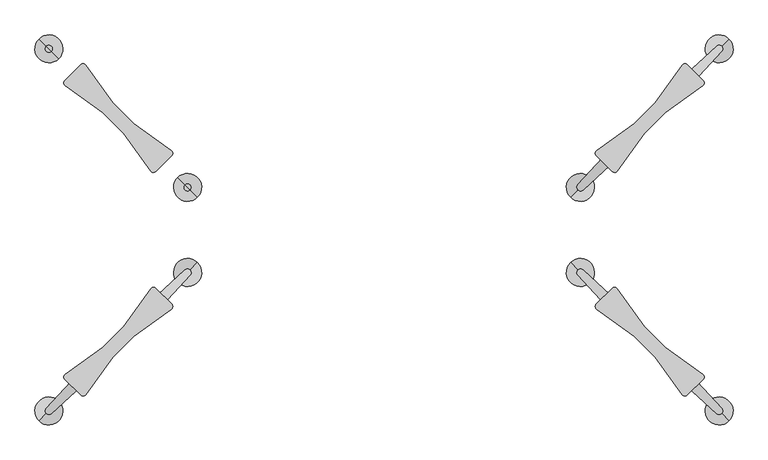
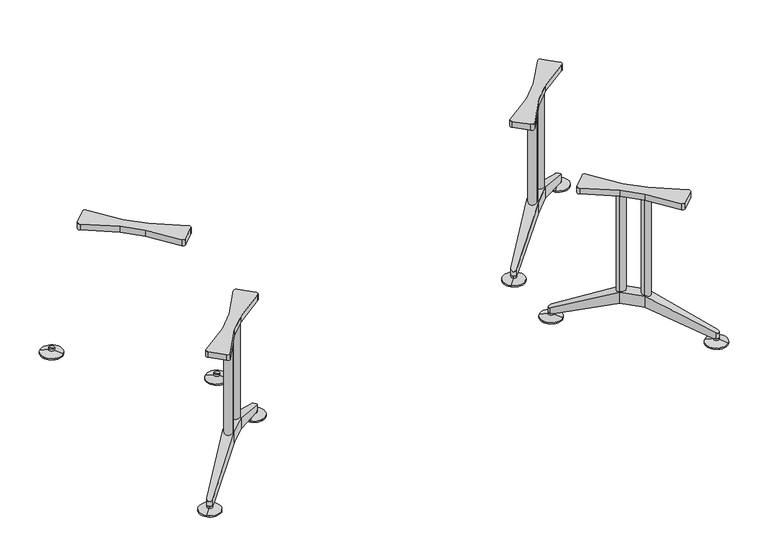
"""IFC4 building model written with IfcOpenShell, lengths in millimetres: furniture geometry, Furniture_Wilkhahn_620-46_Logon Table-Rectangle : Logon 620/46_2650L x 1550W x 730H."""

from ifc_helpers import new_model, si_unit, point, frame, frame_2d, origin, place, context, project, spatial, polyline, circle_curve, ellipse_curve, trimmed, segment, composite_curve, outline, extrude, source, transform, mapped, element, save
from ifc_brep_helpers import plane_surface, cylinder_surface, revolved_surface, advanced_brep


def furniture_56f0e06c(model_context):
    return source(origin(), model_context, "Body", "SolidModel", [
        advanced_brep(
        [(-1198.0915593, -622.1404049, 0.0), (-1162.7362202, -586.7850658, 0.0), (-1233.4468984, -657.4957439, 0.0), (-1162.7362202, -586.7850658, 6.0), (-1233.4468984, -657.4957439, 6.0), (-1189.2699511, -613.3187966, 17.0), (-1206.9131675, -630.9620131, 17.0), (-1189.2699511, -613.3187966, 27.0), (-1206.9131675, -630.9620131, 27.0), (-1198.0915593, -622.1404049, 27.0)],
        [
            (0, 1),
            (1, 2, circle_curve(frame((-1198.0915593, -622.1404049, 0.0), z_axis=(0.0, 0.0, -1.0), x_axis=(-0.707106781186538, -0.7071067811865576, 0.0)), 50.0)),
            (2, 0),
            (2, 1, circle_curve(frame((-1198.0915593, -622.1404049, 0.0), z_axis=(0.0, 0.0, -1.0), x_axis=(-0.707106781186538, -0.7071067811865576, 0.0)), 50.0)),
            (1, 3),
            (3, 4, circle_curve(frame((-1198.0915593, -622.1404049, 6.0), z_axis=(0.0, 0.0, -1.0), x_axis=(-0.707106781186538, -0.7071067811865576, 0.0)), 50.0)),
            (4, 2),
            (4, 3, circle_curve(frame((-1198.0915593, -622.1404049, 6.0), z_axis=(0.0, 0.0, -1.0), x_axis=(-0.707106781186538, -0.7071067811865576, 0.0)), 50.0)),
            (3, 5),
            (5, 6, circle_curve(frame((-1198.0915593, -622.1404049, 17.0), z_axis=(0.0, 0.0, -1.0), x_axis=(-0.707106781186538, -0.7071067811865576, 0.0)), 12.475638)),
            (6, 4),
            (6, 5, circle_curve(frame((-1198.0915593, -622.1404049, 17.0), z_axis=(0.0, 0.0, -1.0), x_axis=(-0.707106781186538, -0.7071067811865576, 0.0)), 12.475638)),
            (5, 7),
            (7, 8, circle_curve(frame((-1198.0915593, -622.1404049, 27.0), z_axis=(0.0, 0.0, -1.0), x_axis=(-0.707106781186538, -0.7071067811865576, 0.0)), 12.475638)),
            (8, 6),
            (8, 7, circle_curve(frame((-1198.0915593, -622.1404049, 27.0), z_axis=(0.0, 0.0, -1.0), x_axis=(-0.707106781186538, -0.7071067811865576, 0.0)), 12.475638)),
            (7, 9),
            (9, 8),
        ],
        [
            plane_surface(frame((-1198.0915593, -622.1404049, 0.0), z_axis=(0.0, 0.0, -0.9999999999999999), x_axis=(-0.7071067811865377, -0.7071067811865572, 0.0))),
            cylinder_surface(frame((-1198.0915593, -622.1404049, 27.0), z_axis=(0.0, 0.0, -1.0), x_axis=(-0.707106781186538, -0.7071067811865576, 0.0)), 50.0),
            revolved_surface(polyline([(-1206.9131675, -630.9620131, 17.0), (-1233.4468984, -657.4957439, 6.0)]), (-1198.0915593, -622.1404049, 27.0), (0.0, 0.0, -1.0)),
            cylinder_surface(frame((-1198.0915593, -622.1404049, 27.0), z_axis=(0.0, 0.0, -1.0), x_axis=(-0.707106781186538, -0.7071067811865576, 0.0)), 12.475638),
            plane_surface(frame((-1198.0915593, -622.1404049, 27.0), z_axis=(0.0, 0.0, 0.9999999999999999), x_axis=(-0.7071067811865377, -0.7071067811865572, 0.0))),
        ],
        [
            (0, [[1, 2, 3]]),
            (0, [[-3, 4, -1]]),
            (1, [[5, 6, 7, -2]]),
            (1, [[-7, 8, -5, -4]]),
            (2, [[9, 10, 11, -6]]),
            (2, [[-11, 12, -9, -8]]),
            (3, [[13, 14, 15, -10]]),
            (3, [[-15, 16, -13, -12]]),
            (4, [[17, 18, -14]]),
            (4, [[-18, -17, -16]]),
        ],
    ),
        advanced_brep(
        [(-737.7305917, -161.7794373, 0.0), (-702.3752526, -126.4240982, 0.0), (-667.0199136, -91.0687591, 0.0), (-737.7305917, -161.7794373, 6.0), (-667.0199136, -91.0687591, 6.0), (-711.1968609, -135.2457064, 17.0), (-693.5536444, -117.60249, 17.0), (-711.1968609, -135.2457064, 27.0), (-693.5536444, -117.60249, 27.0), (-702.3752526, -126.4240982, 27.0)],
        [
            (0, 1),
            (1, 2),
            (2, 0, circle_curve(frame((-702.3752526, -126.4240982, 0.0), z_axis=(0.0, 0.0, -1.0), x_axis=(0.707106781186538, 0.7071067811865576, 0.0)), 50.0)),
            (0, 2, circle_curve(frame((-702.3752526, -126.4240982, 0.0), z_axis=(0.0, 0.0, -1.0), x_axis=(0.707106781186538, 0.7071067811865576, 0.0)), 50.0)),
            (3, 0),
            (2, 4),
            (4, 3, circle_curve(frame((-702.3752526, -126.4240982, 6.0), z_axis=(0.0, 0.0, -1.0), x_axis=(0.707106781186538, 0.7071067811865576, 0.0)), 50.0)),
            (3, 4, circle_curve(frame((-702.3752526, -126.4240982, 6.0), z_axis=(0.0, 0.0, -1.0), x_axis=(0.707106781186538, 0.7071067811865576, 0.0)), 50.0)),
            (5, 3),
            (4, 6),
            (6, 5, circle_curve(frame((-702.3752526, -126.4240982, 17.0), z_axis=(0.0, 0.0, -1.0), x_axis=(0.707106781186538, 0.7071067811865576, 0.0)), 12.475638)),
            (5, 6, circle_curve(frame((-702.3752526, -126.4240982, 17.0), z_axis=(0.0, 0.0, -1.0), x_axis=(0.707106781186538, 0.7071067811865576, 0.0)), 12.475638)),
            (7, 5),
            (6, 8),
            (8, 7, circle_curve(frame((-702.3752526, -126.4240982, 27.0), z_axis=(0.0, 0.0, -1.0), x_axis=(0.707106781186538, 0.7071067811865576, 0.0)), 12.475638)),
            (7, 8, circle_curve(frame((-702.3752526, -126.4240982, 27.0), z_axis=(0.0, 0.0, -1.0), x_axis=(0.707106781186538, 0.7071067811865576, 0.0)), 12.475638)),
            (9, 7),
            (8, 9),
        ],
        [
            plane_surface(frame((-702.3752526, -126.4240982, 0.0), z_axis=(0.0, 0.0, -0.9999999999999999), x_axis=(0.7071067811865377, 0.7071067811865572, 0.0))),
            cylinder_surface(frame((-702.3752526, -126.4240982, 27.0), z_axis=(0.0, 0.0, 1.0), x_axis=(0.707106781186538, 0.7071067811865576, 0.0)), 50.0),
            revolved_surface(polyline([(-667.0199136, -91.0687591, 6.0), (-693.5536444, -117.60249, 17.0)]), (-702.3752526, -126.4240982, 27.0), (0.0, 0.0, 1.0)),
            cylinder_surface(frame((-702.3752526, -126.4240982, 27.0), z_axis=(0.0, 0.0, 1.0), x_axis=(0.707106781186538, 0.7071067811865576, 0.0)), 12.475638),
            plane_surface(frame((-702.3752526, -126.4240982, 27.0), z_axis=(0.0, 0.0, 0.9999999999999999), x_axis=(0.7071067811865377, 0.7071067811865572, 0.0))),
        ],
        [
            (0, [[1, 2, 3]]),
            (0, [[-2, -1, 4]]),
            (1, [[5, -3, 6, 7]]),
            (1, [[-6, -4, -5, 8]]),
            (2, [[9, -7, 10, 11]]),
            (2, [[-10, -8, -9, 12]]),
            (3, [[13, -11, 14, 15]]),
            (3, [[-14, -12, -13, 16]]),
            (4, [[17, -15, 18]]),
            (4, [[-18, -16, -17]]),
        ],
    ),
        extrude(outline(composite_curve([segment(polyline([(-1005.3877349, -394.0812414), (-930.4344161, -319.1279226), (-834.0248184, -184.9361853)]), True, "CONTINUOUS"), segment(trimmed(circle_curve(frame_2d((-824.2792328, -191.9378681)), 12.0), [point((-834.0248184, -184.9361853))], [point((-815.7939515, -183.4525867))], False, "CARTESIAN"), True, "CONTINUOUS"), segment(polyline([(-815.7939515, -183.4525867), (-759.4037411, -239.842797)]), True, "CONTINUOUS"), segment(trimmed(circle_curve(frame_2d((-767.8890225, -248.3280784)), 12.0), [point((-759.4037411, -239.842797))], [point((-760.8873397, -258.073664))], False, "CARTESIAN"), True, "CONTINUOUS"), segment(polyline([(-760.8873397, -258.073664), (-895.079077, -354.4832617), (-970.0323958, -429.4365805), (-1066.4419936, -563.6283178)]), True, "CONTINUOUS"), segment(trimmed(circle_curve(frame_2d((-1076.1875791, -556.626635)), 12.0), [point((-1066.4419936, -563.6283178))], [point((-1084.6728605, -565.1119164))], False, "CARTESIAN"), True, "CONTINUOUS"), segment(polyline([(-1084.6728605, -565.1119164), (-1141.0630708, -508.721706)]), True, "CONTINUOUS"), segment(trimmed(circle_curve(frame_2d((-1132.5777894, -500.2364247)), 12.0), [point((-1141.0630708, -508.721706))], [point((-1139.5794723, -490.4908391))], False, "CARTESIAN"), True, "CONTINUOUS"), segment(polyline([(-1139.5794723, -490.4908391), (-1005.3877349, -394.0812414)]), True, "CONTINUOUS")], self_intersect=False)), frame((0.0, 0.0, 675.0), z_axis=(0.0, 0.0, 1.0), x_axis=(1.0, 0.0, 0.0)), (0.0, 0.0, 1.0), 29.0),
        advanced_brep(
        [(-895.079077, -354.4832617, 140.0), (-895.079077, -354.4832617, 195.0), (-970.0323958, -429.4365805, 195.0), (-970.0323958, -429.4365805, 140.0), (-930.4344161, -319.1279226, 195.0), (-930.4344161, -319.1279226, 140.0), (-1005.3877349, -394.0812414, 140.0), (-1005.3877349, -394.0812414, 195.0), (-720.7378823, -125.704685, 27.0), (-711.5601599, -117.2391909, 27.0), (-693.5536444, -117.60249, 27.0), (-693.1903453, -135.6090055, 27.0), (-701.6558394, -144.7867279, 27.0), (-693.1903453, -135.6090055, 56.4159205), (-693.5536444, -117.60249, 50.6048844), (-711.5601599, -117.2391909, 56.4159205), (-1207.2764666, -612.9554976, 56.4159205), (-1198.8109725, -603.7777752, 27.0), (-1207.2764666, -612.9554976, 27.0), (-1188.906652, -631.3253122, 27.0), (-1179.7289296, -622.8598181, 27.0), (-1188.906652, -631.3253122, 56.4159205), (-1206.9131675, -630.9620131, 50.6048844), (-1206.9131675, -630.9620131, 27.0)],
        [
            (0, 1),
            (1, 2),
            (2, 3),
            (3, 0),
            (4, 5),
            (5, 6),
            (6, 7),
            (7, 4),
            (8, 9),
            (9, 10, circle_curve(frame((-702.7460326, -126.7948781, 27.0), z_axis=(0.0, 0.0, -1.0), x_axis=(-0.7071067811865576, 0.707106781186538, 0.0)), 13.0)),
            (10, 11, circle_curve(frame((-702.7460326, -126.7948781, 27.0), z_axis=(0.0, 0.0, -1.0), x_axis=(-0.7071067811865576, 0.707106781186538, 0.0)), 13.0)),
            (11, 12),
            (12, 8),
            (1, 13),
            (13, 14, ellipse_curve(frame((-702.7460326, -126.7948781, 56.6601634), z_axis=(0.29856403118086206, 0.29856403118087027, 0.906487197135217), x_axis=(0.6409832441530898, 0.6409832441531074, -0.4222333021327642)), 14.341074, 13.0)),
            (14, 15, ellipse_curve(frame((-702.7460326, -126.7948781, 56.6601634), z_axis=(0.29856403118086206, 0.29856403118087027, 0.906487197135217), x_axis=(0.6409832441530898, 0.6409832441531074, -0.4222333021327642)), 14.341074, 13.0)),
            (15, 4),
            (4, 1),
            (5, 8),
            (12, 0),
            (0, 5),
            (16, 7),
            (6, 17),
            (17, 18),
            (18, 16),
            (19, 20),
            (20, 3),
            (2, 21),
            (21, 19),
            (7, 2),
            (3, 6),
            (21, 22, ellipse_curve(frame((-1197.7207794, -621.769625, 56.6601634), z_axis=(0.29856403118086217, 0.29856403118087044, -0.9064871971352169), x_axis=(-0.6409832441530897, -0.6409832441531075, -0.42223330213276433)), 14.341074, 13.0)),
            (22, 16, ellipse_curve(frame((-1197.7207794, -621.769625, 56.6601634), z_axis=(0.29856403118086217, 0.29856403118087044, -0.9064871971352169), x_axis=(-0.6409832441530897, -0.6409832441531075, -0.42223330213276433)), 14.341074, 13.0)),
            (18, 23, circle_curve(frame((-1197.7207794, -621.769625, 27.0), z_axis=(0.0, 0.0, 1.0), x_axis=(-0.7071067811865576, 0.707106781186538, 0.0)), 13.0)),
            (23, 19, circle_curve(frame((-1197.7207794, -621.769625, 27.0), z_axis=(0.0, 0.0, 1.0), x_axis=(-0.7071067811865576, 0.707106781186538, 0.0)), 13.0)),
            (11, 13),
            (9, 15),
            (17, 20),
        ],
        [
            plane_surface(frame((-687.7175668, -147.1217514, 27.0), z_axis=(0.7071067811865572, -0.7071067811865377, 0.0), x_axis=(-0.7071067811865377, -0.7071067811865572, 0.0))),
            plane_surface(frame((-723.0729058, -111.7664123, 27.0), z_axis=(-0.7071067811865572, 0.7071067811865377, 0.0), x_axis=(0.7071067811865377, 0.7071067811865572, 0.0))),
            plane_surface(frame((-728.8745304, -117.5680369, 27.0), z_axis=(0.0, 0.0, -0.9999999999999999), x_axis=(0.7071067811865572, -0.7071067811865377, 0.0))),
            plane_surface(frame((-711.2313139, -99.9248204, 50.6048844), z_axis=(0.29856403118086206, 0.29856403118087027, 0.906487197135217), x_axis=(0.7071067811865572, -0.7071067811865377, 0.0))),
            plane_surface(frame((-930.4344161, -319.1279226, 140.0), z_axis=(-0.26058488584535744, -0.2605848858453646, -0.9296187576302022), x_axis=(0.7071067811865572, -0.7071067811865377, 0.0))),
            plane_surface(frame((-1005.3877349, -394.0812414, 195.0), z_axis=(-0.735052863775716, 0.6780097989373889, 0.0), x_axis=(0.0, 0.0, -1.0))),
            plane_surface(frame((-1188.906652, -631.3253122, 195.0), z_axis=(0.678009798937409, -0.7350528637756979, 0.0), x_axis=(0.0, 0.0, -1.0))),
            plane_surface(frame((-930.4344161, -319.1279226, 195.0), z_axis=(0.0, 0.0, 0.9999999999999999), x_axis=(0.7071067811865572, -0.7071067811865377, 0.0))),
            plane_surface(frame((-1005.3877349, -394.0812414, 140.0), z_axis=(0.0, 0.0, -0.9999999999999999), x_axis=(0.7071067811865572, -0.7071067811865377, 0.0))),
            cylinder_surface(frame((-1197.7207794, -621.769625, 0.0), z_axis=(0.0, 0.0, -1.0), x_axis=(-0.7071067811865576, 0.707106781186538, 0.0)), 13.0),
            plane_surface(frame((-895.079077, -354.4832617, 195.0), z_axis=(0.7350528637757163, -0.6780097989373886, 0.0), x_axis=(0.0, 0.0, -1.0))),
            cylinder_surface(frame((-702.7460326, -126.7948781, -14.190167), z_axis=(0.0, 0.0, -1.0), x_axis=(-0.7071067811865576, 0.707106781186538, 0.0)), 13.0),
            plane_surface(frame((-711.5601599, -117.2391909, 195.0), z_axis=(-0.6780097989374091, 0.7350528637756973, 0.0), x_axis=(0.0, 0.0, -1.0))),
            plane_surface(frame((-1005.3877349, -394.0812414, 195.0), z_axis=(-0.29856403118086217, -0.29856403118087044, 0.9064871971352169), x_axis=(0.7071067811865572, -0.7071067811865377, 0.0))),
            plane_surface(frame((-1224.5908371, -613.2843436, 27.0), z_axis=(0.0, 0.0, -0.9999999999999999), x_axis=(0.7071067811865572, -0.7071067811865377, 0.0))),
            plane_surface(frame((-1206.9476206, -595.6411271, 27.0), z_axis=(0.2605848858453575, 0.2605848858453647, -0.9296187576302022), x_axis=(0.7071067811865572, -0.7071067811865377, 0.0))),
        ],
        [
            (0, [[1, 2, 3, 4]]),
            (1, [[5, 6, 7, 8]]),
            (2, [[9, 10, 11, 12, 13]]),
            (3, [[14, 15, 16, 17, 18]]),
            (4, [[19, -13, 20, 21]]),
            (5, [[22, -7, 23, 24, 25]]),
            (6, [[26, 27, -3, 28, 29]]),
            (7, [[-18, -8, 30, -2]]),
            (8, [[31, -6, -21, -4]]),
            (9, [[32, 33, -25, 34, 35, -29]]),
            (10, [[-14, -1, -20, -12, 36]]),
            (11, [[-11, -10, 37, -16, -15, -36]]),
            (12, [[-9, -19, -5, -17, -37]]),
            (13, [[-22, -33, -32, -28, -30]]),
            (14, [[-26, -35, -34, -24, 38]]),
            (15, [[-27, -38, -23, -31]]),
        ],
    ),
        extrude(outline(composite_curve([segment(trimmed(circle_curve(frame_2d((-987.7100654, -411.7589109)), 20.0), [point((-973.5679298, -425.9010466))], [point((-1001.852201, -397.6167753))], False, "CARTESIAN"), True, "CONTINUOUS"), segment(trimmed(circle_curve(frame_2d((-987.7100654, -411.7589109)), 20.0), [point((-1001.852201, -397.6167753))], [point((-973.5679298, -425.9010466))], False, "CARTESIAN"), True, "CONTINUOUS")], self_intersect=False)), frame((0.0, 0.0, 140.0), z_axis=(0.0, 0.0, 1.0), x_axis=(1.0, 0.0, 0.0)), (0.0, 0.0, 1.0), 535.0),
        extrude(outline(composite_curve([segment(trimmed(circle_curve(frame_2d((-912.7567466, -336.8055921)), 20.0), [point((-898.6146109, -350.9477278))], [point((-926.8988822, -322.6634565))], False, "CARTESIAN"), True, "CONTINUOUS"), segment(trimmed(circle_curve(frame_2d((-912.7567466, -336.8055921)), 20.0), [point((-926.8988822, -322.6634565))], [point((-898.6146109, -350.9477278))], False, "CARTESIAN"), True, "CONTINUOUS")], self_intersect=False)), frame((0.0, 0.0, 140.0), z_axis=(0.0, 0.0, 1.0), x_axis=(1.0, 0.0, 0.0)), (0.0, 0.0, 1.0), 535.0),
        advanced_brep(
        [(1198.0915593, -622.1404049, 0.0), (1233.4468984, -657.4957439, 0.0), (1162.7362202, -586.7850658, 0.0), (1233.4468984, -657.4957439, 6.0), (1162.7362202, -586.7850658, 6.0), (1206.9131675, -630.9620131, 17.0), (1189.2699511, -613.3187966, 17.0), (1206.9131675, -630.9620131, 27.0), (1189.2699511, -613.3187966, 27.0), (1198.0915593, -622.1404049, 27.0)],
        [
            (0, 1),
            (1, 2, circle_curve(frame((1198.0915593, -622.1404049, 0.0), z_axis=(0.0, 0.0, -1.0), x_axis=(0.707106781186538, -0.7071067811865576, 0.0)), 50.0)),
            (2, 0),
            (2, 1, circle_curve(frame((1198.0915593, -622.1404049, 0.0), z_axis=(0.0, 0.0, -1.0), x_axis=(0.707106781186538, -0.7071067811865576, 0.0)), 50.0)),
            (1, 3),
            (3, 4, circle_curve(frame((1198.0915593, -622.1404049, 6.0), z_axis=(0.0, 0.0, -1.0), x_axis=(0.707106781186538, -0.7071067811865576, 0.0)), 50.0)),
            (4, 2),
            (4, 3, circle_curve(frame((1198.0915593, -622.1404049, 6.0), z_axis=(0.0, 0.0, -1.0), x_axis=(0.707106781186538, -0.7071067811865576, 0.0)), 50.0)),
            (3, 5),
            (5, 6, circle_curve(frame((1198.0915593, -622.1404049, 17.0), z_axis=(0.0, 0.0, -1.0), x_axis=(0.707106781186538, -0.7071067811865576, 0.0)), 12.475638)),
            (6, 4),
            (6, 5, circle_curve(frame((1198.0915593, -622.1404049, 17.0), z_axis=(0.0, 0.0, -1.0), x_axis=(0.707106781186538, -0.7071067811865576, 0.0)), 12.475638)),
            (5, 7),
            (7, 8, circle_curve(frame((1198.0915593, -622.1404049, 27.0), z_axis=(0.0, 0.0, -1.0), x_axis=(0.707106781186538, -0.7071067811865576, 0.0)), 12.475638)),
            (8, 6),
            (8, 7, circle_curve(frame((1198.0915593, -622.1404049, 27.0), z_axis=(0.0, 0.0, -1.0), x_axis=(0.707106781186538, -0.7071067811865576, 0.0)), 12.475638)),
            (7, 9),
            (9, 8),
        ],
        [
            plane_surface(frame((1198.0915593, -622.1404049, 0.0), z_axis=(0.0, 0.0, -0.9999999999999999), x_axis=(0.7071067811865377, -0.7071067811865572, 0.0))),
            cylinder_surface(frame((1198.0915593, -622.1404049, 27.0), z_axis=(0.0, 0.0, -1.0), x_axis=(0.707106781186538, -0.7071067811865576, 0.0)), 50.0),
            revolved_surface(polyline([(1206.9131675, -630.9620131, 17.0), (1233.4468984, -657.4957439, 6.0)]), (1198.0915593, -622.1404049, 27.0), (0.0, 0.0, -1.0)),
            cylinder_surface(frame((1198.0915593, -622.1404049, 27.0), z_axis=(0.0, 0.0, -1.0), x_axis=(0.707106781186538, -0.7071067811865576, 0.0)), 12.475638),
            plane_surface(frame((1198.0915593, -622.1404049, 27.0), z_axis=(0.0, 0.0, 0.9999999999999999), x_axis=(0.7071067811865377, -0.7071067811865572, 0.0))),
        ],
        [
            (0, [[1, 2, 3]]),
            (0, [[-3, 4, -1]]),
            (1, [[-2, 5, 6, 7]]),
            (1, [[-4, -7, 8, -5]]),
            (2, [[-6, 9, 10, 11]]),
            (2, [[-8, -11, 12, -9]]),
            (3, [[-10, 13, 14, 15]]),
            (3, [[-12, -15, 16, -13]]),
            (4, [[-14, 17, 18]]),
            (4, [[-16, -18, -17]]),
        ],
    ),
        advanced_brep(
        [(737.7305917, -161.7794373, 0.0), (667.0199136, -91.0687591, 0.0), (702.3752526, -126.4240982, 0.0), (737.7305917, -161.7794373, 6.0), (667.0199136, -91.0687591, 6.0), (711.1968609, -135.2457064, 17.0), (693.5536444, -117.60249, 17.0), (711.1968609, -135.2457064, 27.0), (693.5536444, -117.60249, 27.0), (702.3752526, -126.4240982, 27.0)],
        [
            (0, 1, circle_curve(frame((702.3752526, -126.4240982, 0.0), z_axis=(0.0, 0.0, -1.0), x_axis=(-0.707106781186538, 0.7071067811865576, 0.0)), 50.0)),
            (1, 2),
            (2, 0),
            (1, 0, circle_curve(frame((702.3752526, -126.4240982, 0.0), z_axis=(0.0, 0.0, -1.0), x_axis=(-0.707106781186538, 0.7071067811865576, 0.0)), 50.0)),
            (3, 4, circle_curve(frame((702.3752526, -126.4240982, 6.0), z_axis=(0.0, 0.0, -1.0), x_axis=(-0.707106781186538, 0.7071067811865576, 0.0)), 50.0)),
            (4, 1),
            (0, 3),
            (4, 3, circle_curve(frame((702.3752526, -126.4240982, 6.0), z_axis=(0.0, 0.0, -1.0), x_axis=(-0.707106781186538, 0.7071067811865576, 0.0)), 50.0)),
            (5, 6, circle_curve(frame((702.3752526, -126.4240982, 17.0), z_axis=(0.0, 0.0, -1.0), x_axis=(-0.707106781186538, 0.7071067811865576, 0.0)), 12.475638)),
            (6, 4),
            (3, 5),
            (6, 5, circle_curve(frame((702.3752526, -126.4240982, 17.0), z_axis=(0.0, 0.0, -1.0), x_axis=(-0.707106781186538, 0.7071067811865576, 0.0)), 12.475638)),
            (7, 8, circle_curve(frame((702.3752526, -126.4240982, 27.0), z_axis=(0.0, 0.0, -1.0), x_axis=(-0.707106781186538, 0.7071067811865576, 0.0)), 12.475638)),
            (8, 6),
            (5, 7),
            (8, 7, circle_curve(frame((702.3752526, -126.4240982, 27.0), z_axis=(0.0, 0.0, -1.0), x_axis=(-0.707106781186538, 0.7071067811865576, 0.0)), 12.475638)),
            (9, 8),
            (7, 9),
        ],
        [
            plane_surface(frame((702.3752526, -126.4240982, 0.0), z_axis=(0.0, 0.0, -0.9999999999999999), x_axis=(-0.7071067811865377, 0.7071067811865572, 0.0))),
            cylinder_surface(frame((702.3752526, -126.4240982, 27.0), z_axis=(0.0, 0.0, 1.0), x_axis=(-0.707106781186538, 0.7071067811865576, 0.0)), 50.0),
            revolved_surface(polyline([(667.0199136, -91.0687591, 6.0), (693.5536444, -117.60249, 17.0)]), (702.3752526, -126.4240982, 27.0), (0.0, 0.0, 1.0)),
            cylinder_surface(frame((702.3752526, -126.4240982, 27.0), z_axis=(0.0, 0.0, 1.0), x_axis=(-0.707106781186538, 0.7071067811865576, 0.0)), 12.475638),
            plane_surface(frame((702.3752526, -126.4240982, 27.0), z_axis=(0.0, 0.0, 0.9999999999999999), x_axis=(-0.7071067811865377, 0.7071067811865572, 0.0))),
        ],
        [
            (0, [[1, 2, 3]]),
            (0, [[4, -3, -2]]),
            (1, [[5, 6, -1, 7]]),
            (1, [[8, -7, -4, -6]]),
            (2, [[9, 10, -5, 11]]),
            (2, [[12, -11, -8, -10]]),
            (3, [[13, 14, -9, 15]]),
            (3, [[16, -15, -12, -14]]),
            (4, [[17, -13, 18]]),
            (4, [[-18, -16, -17]]),
        ],
    ),
        extrude(outline(composite_curve([segment(polyline([(1005.3877349, -394.0812414), (1139.5794723, -490.4908391)]), True, "CONTINUOUS"), segment(trimmed(circle_curve(frame_2d((1132.5777894, -500.2364247)), 12.0), [point((1139.5794723, -490.4908391))], [point((1141.0630708, -508.721706))], False, "CARTESIAN"), True, "CONTINUOUS"), segment(polyline([(1141.0630708, -508.721706), (1084.6728605, -565.1119164)]), True, "CONTINUOUS"), segment(trimmed(circle_curve(frame_2d((1076.1875791, -556.626635)), 12.0), [point((1084.6728605, -565.1119164))], [point((1066.4419936, -563.6283178))], False, "CARTESIAN"), True, "CONTINUOUS"), segment(polyline([(1066.4419936, -563.6283178), (970.0323958, -429.4365805), (895.079077, -354.4832617), (760.8873397, -258.073664)]), True, "CONTINUOUS"), segment(trimmed(circle_curve(frame_2d((767.8890225, -248.3280784)), 12.0), [point((760.8873397, -258.073664))], [point((759.4037411, -239.842797))], False, "CARTESIAN"), True, "CONTINUOUS"), segment(polyline([(759.4037411, -239.842797), (815.7939515, -183.4525867)]), True, "CONTINUOUS"), segment(trimmed(circle_curve(frame_2d((824.2792328, -191.9378681)), 12.0), [point((815.7939515, -183.4525867))], [point((834.0248184, -184.9361853))], False, "CARTESIAN"), True, "CONTINUOUS"), segment(polyline([(834.0248184, -184.9361853), (930.4344161, -319.1279226), (1005.3877349, -394.0812414)]), True, "CONTINUOUS")], self_intersect=False)), frame((0.0, 0.0, 675.0), z_axis=(0.0, 0.0, 1.0), x_axis=(1.0, 0.0, 0.0)), (0.0, 0.0, 1.0), 29.0),
        advanced_brep(
        [(895.079077, -354.4832617, 140.0), (970.0323958, -429.4365805, 140.0), (970.0323958, -429.4365805, 195.0), (895.079077, -354.4832617, 195.0), (930.4344161, -319.1279226, 195.0), (1005.3877349, -394.0812414, 195.0), (1005.3877349, -394.0812414, 140.0), (930.4344161, -319.1279226, 140.0), (720.7378823, -125.704685, 27.0), (701.6558394, -144.7867279, 27.0), (693.1903453, -135.6090055, 27.0), (693.5536444, -117.60249, 27.0), (711.5601599, -117.2391909, 27.0), (711.5601599, -117.2391909, 56.4159205), (693.5536444, -117.60249, 50.6048844), (693.1903453, -135.6090055, 56.4159205), (1207.2764666, -612.9554976, 56.4159205), (1207.2764666, -612.9554976, 27.0), (1198.8109725, -603.7777752, 27.0), (1188.906652, -631.3253122, 27.0), (1188.906652, -631.3253122, 56.4159205), (1179.7289296, -622.8598181, 27.0), (1206.9131675, -630.9620131, 27.0), (1206.9131675, -630.9620131, 50.6048844)],
        [
            (0, 1),
            (1, 2),
            (2, 3),
            (3, 0),
            (4, 5),
            (5, 6),
            (6, 7),
            (7, 4),
            (8, 9),
            (9, 10),
            (10, 11, circle_curve(frame((702.7460326, -126.7948781, 27.0), z_axis=(0.0, 0.0, -1.0), x_axis=(0.7071067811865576, 0.707106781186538, 0.0)), 13.0)),
            (11, 12, circle_curve(frame((702.7460326, -126.7948781, 27.0), z_axis=(0.0, 0.0, -1.0), x_axis=(0.7071067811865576, 0.707106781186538, 0.0)), 13.0)),
            (12, 8),
            (3, 4),
            (4, 13),
            (13, 14, ellipse_curve(frame((702.7460326, -126.7948781, 56.6601634), z_axis=(-0.29856403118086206, 0.29856403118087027, 0.906487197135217), x_axis=(-0.6409832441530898, 0.6409832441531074, -0.4222333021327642)), 14.341074, 13.0)),
            (14, 15, ellipse_curve(frame((702.7460326, -126.7948781, 56.6601634), z_axis=(-0.29856403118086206, 0.29856403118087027, 0.906487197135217), x_axis=(-0.6409832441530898, 0.6409832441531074, -0.4222333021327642)), 14.341074, 13.0)),
            (15, 3),
            (7, 0),
            (0, 9),
            (8, 7),
            (16, 17),
            (17, 18),
            (18, 6),
            (5, 16),
            (19, 20),
            (20, 2),
            (1, 21),
            (21, 19),
            (2, 5),
            (6, 1),
            (19, 22, circle_curve(frame((1197.7207794, -621.769625, 27.0), z_axis=(0.0, 0.0, 1.0), x_axis=(0.7071067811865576, 0.707106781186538, 0.0)), 13.0)),
            (22, 17, circle_curve(frame((1197.7207794, -621.769625, 27.0), z_axis=(0.0, 0.0, 1.0), x_axis=(0.7071067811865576, 0.707106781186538, 0.0)), 13.0)),
            (16, 23, ellipse_curve(frame((1197.7207794, -621.769625, 56.6601634), z_axis=(-0.29856403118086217, 0.29856403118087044, -0.9064871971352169), x_axis=(0.6409832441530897, -0.6409832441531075, -0.42223330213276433)), 14.341074, 13.0)),
            (23, 20, ellipse_curve(frame((1197.7207794, -621.769625, 56.6601634), z_axis=(-0.29856403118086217, 0.29856403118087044, -0.9064871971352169), x_axis=(0.6409832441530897, -0.6409832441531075, -0.42223330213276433)), 14.341074, 13.0)),
            (15, 10),
            (13, 12),
            (21, 18),
        ],
        [
            plane_surface(frame((687.7175668, -147.1217514, 27.0), z_axis=(-0.7071067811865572, -0.7071067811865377, 0.0), x_axis=(0.7071067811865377, -0.7071067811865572, 0.0))),
            plane_surface(frame((723.0729058, -111.7664123, 27.0), z_axis=(0.7071067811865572, 0.7071067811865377, 0.0), x_axis=(-0.7071067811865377, 0.7071067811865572, 0.0))),
            plane_surface(frame((728.8745304, -117.5680369, 27.0), z_axis=(0.0, 0.0, -0.9999999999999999), x_axis=(-0.7071067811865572, -0.7071067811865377, 0.0))),
            plane_surface(frame((711.2313139, -99.9248204, 50.6048844), z_axis=(-0.29856403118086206, 0.29856403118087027, 0.906487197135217), x_axis=(-0.7071067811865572, -0.7071067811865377, 0.0))),
            plane_surface(frame((930.4344161, -319.1279226, 140.0), z_axis=(0.26058488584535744, -0.2605848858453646, -0.9296187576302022), x_axis=(-0.7071067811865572, -0.7071067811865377, 0.0))),
            plane_surface(frame((1005.3877349, -394.0812414, 195.0), z_axis=(0.735052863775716, 0.6780097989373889, 0.0), x_axis=(0.0, 0.0, -1.0))),
            plane_surface(frame((1188.906652, -631.3253122, 195.0), z_axis=(-0.678009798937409, -0.7350528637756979, 0.0), x_axis=(0.0, 0.0, -1.0))),
            plane_surface(frame((930.4344161, -319.1279226, 195.0), z_axis=(0.0, 0.0, 0.9999999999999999), x_axis=(-0.7071067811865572, -0.7071067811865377, 0.0))),
            plane_surface(frame((1005.3877349, -394.0812414, 140.0), z_axis=(0.0, 0.0, -0.9999999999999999), x_axis=(-0.7071067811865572, -0.7071067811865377, 0.0))),
            cylinder_surface(frame((1197.7207794, -621.769625, 0.0), z_axis=(0.0, 0.0, -1.0), x_axis=(0.7071067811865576, 0.707106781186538, 0.0)), 13.0),
            plane_surface(frame((895.079077, -354.4832617, 195.0), z_axis=(-0.7350528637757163, -0.6780097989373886, 0.0), x_axis=(0.0, 0.0, -1.0))),
            cylinder_surface(frame((702.7460326, -126.7948781, -14.190167), z_axis=(0.0, 0.0, -1.0), x_axis=(0.7071067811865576, 0.707106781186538, 0.0)), 13.0),
            plane_surface(frame((711.5601599, -117.2391909, 195.0), z_axis=(0.6780097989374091, 0.7350528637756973, 0.0), x_axis=(0.0, 0.0, -1.0))),
            plane_surface(frame((1005.3877349, -394.0812414, 195.0), z_axis=(0.29856403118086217, -0.29856403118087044, 0.9064871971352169), x_axis=(-0.7071067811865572, -0.7071067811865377, 0.0))),
            plane_surface(frame((1224.5908371, -613.2843436, 27.0), z_axis=(0.0, 0.0, -0.9999999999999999), x_axis=(-0.7071067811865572, -0.7071067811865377, 0.0))),
            plane_surface(frame((1206.9476206, -595.6411271, 27.0), z_axis=(-0.2605848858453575, 0.2605848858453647, -0.9296187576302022), x_axis=(-0.7071067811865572, -0.7071067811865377, 0.0))),
        ],
        [
            (0, [[1, 2, 3, 4]]),
            (1, [[5, 6, 7, 8]]),
            (2, [[9, 10, 11, 12, 13]]),
            (3, [[14, 15, 16, 17, 18]]),
            (4, [[19, 20, -9, 21]]),
            (5, [[22, 23, 24, -6, 25]]),
            (6, [[26, 27, -2, 28, 29]]),
            (7, [[-3, 30, -5, -14]]),
            (8, [[-1, -19, -7, 31]]),
            (9, [[-26, 32, 33, -22, 34, 35]]),
            (10, [[36, -10, -20, -4, -18]]),
            (11, [[-36, -17, -16, 37, -12, -11]]),
            (12, [[-37, -15, -8, -21, -13]]),
            (13, [[-30, -27, -35, -34, -25]]),
            (14, [[38, -23, -33, -32, -29]]),
            (15, [[-31, -24, -38, -28]]),
        ],
    ),
        extrude(outline(composite_curve([segment(trimmed(circle_curve(frame_2d((987.7100654, -411.7589109)), 20.0), [point((973.5679298, -425.9010466))], [point((1001.852201, -397.6167753))], False, "CARTESIAN"), True, "CONTINUOUS"), segment(trimmed(circle_curve(frame_2d((987.7100654, -411.7589109)), 20.0), [point((1001.852201, -397.6167753))], [point((973.5679298, -425.9010466))], False, "CARTESIAN"), True, "CONTINUOUS")], self_intersect=False)), frame((0.0, 0.0, 140.0), z_axis=(0.0, 0.0, 1.0), x_axis=(1.0, 0.0, 0.0)), (0.0, 0.0, 1.0), 535.0),
        extrude(outline(composite_curve([segment(trimmed(circle_curve(frame_2d((912.7567466, -336.8055921)), 20.0), [point((898.6146109, -350.9477278))], [point((926.8988822, -322.6634565))], False, "CARTESIAN"), True, "CONTINUOUS"), segment(trimmed(circle_curve(frame_2d((912.7567466, -336.8055921)), 20.0), [point((926.8988822, -322.6634565))], [point((898.6146109, -350.9477278))], False, "CARTESIAN"), True, "CONTINUOUS")], self_intersect=False)), frame((0.0, 0.0, 140.0), z_axis=(0.0, 0.0, 1.0), x_axis=(1.0, 0.0, 0.0)), (0.0, 0.0, 1.0), 535.0),
        advanced_brep(
        [(1198.0915593, 674.0427137, 0.0), (1162.7362202, 638.6873747, 0.0), (1233.4468984, 709.3980528, 0.0), (1162.7362202, 638.6873747, 6.0), (1233.4468984, 709.3980528, 6.0), (1189.2699511, 665.2211055, 17.0), (1206.9131675, 682.864322, 17.0), (1189.2699511, 665.2211055, 27.0), (1206.9131675, 682.864322, 27.0), (1198.0915593, 674.0427137, 27.0)],
        [
            (0, 1),
            (1, 2, circle_curve(frame((1198.0915593, 674.0427137, 0.0), z_axis=(0.0, 0.0, -1.0), x_axis=(0.7071067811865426, 0.707106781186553, 0.0)), 50.0)),
            (2, 0),
            (2, 1, circle_curve(frame((1198.0915593, 674.0427137, 0.0), z_axis=(0.0, 0.0, -1.0), x_axis=(0.7071067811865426, 0.707106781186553, 0.0)), 50.0)),
            (1, 3),
            (3, 4, circle_curve(frame((1198.0915593, 674.0427137, 6.0), z_axis=(0.0, 0.0, -1.0), x_axis=(0.7071067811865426, 0.707106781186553, 0.0)), 50.0)),
            (4, 2),
            (4, 3, circle_curve(frame((1198.0915593, 674.0427137, 6.0), z_axis=(0.0, 0.0, -1.0), x_axis=(0.7071067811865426, 0.707106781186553, 0.0)), 50.0)),
            (3, 5),
            (5, 6, circle_curve(frame((1198.0915593, 674.0427137, 17.0), z_axis=(0.0, 0.0, -1.0), x_axis=(0.7071067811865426, 0.707106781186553, 0.0)), 12.475638)),
            (6, 4),
            (6, 5, circle_curve(frame((1198.0915593, 674.0427137, 17.0), z_axis=(0.0, 0.0, -1.0), x_axis=(0.7071067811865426, 0.707106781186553, 0.0)), 12.475638)),
            (5, 7),
            (7, 8, circle_curve(frame((1198.0915593, 674.0427137, 27.0), z_axis=(0.0, 0.0, -1.0), x_axis=(0.7071067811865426, 0.707106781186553, 0.0)), 12.475638)),
            (8, 6),
            (8, 7, circle_curve(frame((1198.0915593, 674.0427137, 27.0), z_axis=(0.0, 0.0, -1.0), x_axis=(0.7071067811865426, 0.707106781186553, 0.0)), 12.475638)),
            (7, 9),
            (9, 8),
        ],
        [
            plane_surface(frame((1198.0915593, 674.0427137, 0.0), z_axis=(0.0, 0.0, -0.9999999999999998), x_axis=(0.7071067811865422, 0.7071067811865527, 0.0))),
            cylinder_surface(frame((1198.0915593, 674.0427137, 27.0), z_axis=(0.0, 0.0, -1.0), x_axis=(0.7071067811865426, 0.707106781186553, 0.0)), 50.0),
            revolved_surface(polyline([(1206.9131675, 682.864322, 17.0), (1233.4468984, 709.3980528, 6.0)]), (1198.0915593, 674.0427137, 27.0), (0.0, 0.0, -1.0)),
            cylinder_surface(frame((1198.0915593, 674.0427137, 27.0), z_axis=(0.0, 0.0, -1.0), x_axis=(0.7071067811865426, 0.707106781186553, 0.0)), 12.475638),
            plane_surface(frame((1198.0915593, 674.0427137, 27.0), z_axis=(0.0, 0.0, 0.9999999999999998), x_axis=(0.7071067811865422, 0.7071067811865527, 0.0))),
        ],
        [
            (0, [[1, 2, 3]]),
            (0, [[-3, 4, -1]]),
            (1, [[5, 6, 7, -2]]),
            (1, [[-7, 8, -5, -4]]),
            (2, [[9, 10, 11, -6]]),
            (2, [[-11, 12, -9, -8]]),
            (3, [[13, 14, 15, -10]]),
            (3, [[-15, 16, -13, -12]]),
            (4, [[17, 18, -14]]),
            (4, [[-18, -17, -16]]),
        ],
    ),
        advanced_brep(
        [(737.7305917, 213.6817461, 0.0), (702.3752526, 178.3264071, 0.0), (667.0199136, 142.971068, 0.0), (737.7305917, 213.6817461, 6.0), (667.0199136, 142.971068, 6.0), (711.1968609, 187.1480153, 17.0), (693.5536444, 169.5047988, 17.0), (711.1968609, 187.1480153, 27.0), (693.5536444, 169.5047988, 27.0), (702.3752526, 178.3264071, 27.0)],
        [
            (0, 1),
            (1, 2),
            (2, 0, circle_curve(frame((702.3752526, 178.3264071, 0.0), z_axis=(0.0, 0.0, -1.0), x_axis=(-0.7071067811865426, -0.707106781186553, 0.0)), 50.0)),
            (0, 2, circle_curve(frame((702.3752526, 178.3264071, 0.0), z_axis=(0.0, 0.0, -1.0), x_axis=(-0.7071067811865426, -0.707106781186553, 0.0)), 50.0)),
            (3, 0),
            (2, 4),
            (4, 3, circle_curve(frame((702.3752526, 178.3264071, 6.0), z_axis=(0.0, 0.0, -1.0), x_axis=(-0.7071067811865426, -0.707106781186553, 0.0)), 50.0)),
            (3, 4, circle_curve(frame((702.3752526, 178.3264071, 6.0), z_axis=(0.0, 0.0, -1.0), x_axis=(-0.7071067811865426, -0.707106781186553, 0.0)), 50.0)),
            (5, 3),
            (4, 6),
            (6, 5, circle_curve(frame((702.3752526, 178.3264071, 17.0), z_axis=(0.0, 0.0, -1.0), x_axis=(-0.7071067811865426, -0.707106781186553, 0.0)), 12.475638)),
            (5, 6, circle_curve(frame((702.3752526, 178.3264071, 17.0), z_axis=(0.0, 0.0, -1.0), x_axis=(-0.7071067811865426, -0.707106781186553, 0.0)), 12.475638)),
            (7, 5),
            (6, 8),
            (8, 7, circle_curve(frame((702.3752526, 178.3264071, 27.0), z_axis=(0.0, 0.0, -1.0), x_axis=(-0.7071067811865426, -0.707106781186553, 0.0)), 12.475638)),
            (7, 8, circle_curve(frame((702.3752526, 178.3264071, 27.0), z_axis=(0.0, 0.0, -1.0), x_axis=(-0.7071067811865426, -0.707106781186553, 0.0)), 12.475638)),
            (9, 7),
            (8, 9),
        ],
        [
            plane_surface(frame((702.3752526, 178.3264071, 0.0), z_axis=(0.0, 0.0, -0.9999999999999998), x_axis=(-0.7071067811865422, -0.7071067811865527, 0.0))),
            cylinder_surface(frame((702.3752526, 178.3264071, 27.0), z_axis=(0.0, 0.0, 1.0), x_axis=(-0.7071067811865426, -0.707106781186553, 0.0)), 50.0),
            revolved_surface(polyline([(667.0199136, 142.971068, 6.0), (693.5536444, 169.5047988, 17.0)]), (702.3752526, 178.3264071, 27.0), (0.0, 0.0, 1.0)),
            cylinder_surface(frame((702.3752526, 178.3264071, 27.0), z_axis=(0.0, 0.0, 1.0), x_axis=(-0.7071067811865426, -0.707106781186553, 0.0)), 12.475638),
            plane_surface(frame((702.3752526, 178.3264071, 27.0), z_axis=(0.0, 0.0, 0.9999999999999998), x_axis=(-0.7071067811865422, -0.7071067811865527, 0.0))),
        ],
        [
            (0, [[1, 2, 3]]),
            (0, [[-2, -1, 4]]),
            (1, [[5, -3, 6, 7]]),
            (1, [[-6, -4, -5, 8]]),
            (2, [[9, -7, 10, 11]]),
            (2, [[-10, -8, -9, 12]]),
            (3, [[13, -11, 14, 15]]),
            (3, [[-14, -12, -13, 16]]),
            (4, [[17, -15, 18]]),
            (4, [[-18, -16, -17]]),
        ],
    ),
        extrude(outline(composite_curve([segment(polyline([(1005.3877349, 445.9835503), (930.4344161, 371.0302315), (834.0248184, 236.8384941)]), True, "CONTINUOUS"), segment(trimmed(circle_curve(frame_2d((824.2792328, 243.8401769)), 12.0), [point((834.0248184, 236.8384941))], [point((815.7939515, 235.3548956))], False, "CARTESIAN"), True, "CONTINUOUS"), segment(polyline([(815.7939515, 235.3548956), (759.4037411, 291.7451059)]), True, "CONTINUOUS"), segment(trimmed(circle_curve(frame_2d((767.8890225, 300.2303873)), 12.0), [point((759.4037411, 291.7451059))], [point((760.8873397, 309.9759728))], False, "CARTESIAN"), True, "CONTINUOUS"), segment(polyline([(760.8873397, 309.9759728), (895.079077, 406.3855705), (970.0323958, 481.3388893), (1066.4419936, 615.5306267)]), True, "CONTINUOUS"), segment(trimmed(circle_curve(frame_2d((1076.1875791, 608.5289439)), 12.0), [point((1066.4419936, 615.5306267))], [point((1084.6728605, 617.0142252))], False, "CARTESIAN"), True, "CONTINUOUS"), segment(polyline([(1084.6728605, 617.0142252), (1141.0630708, 560.6240149)]), True, "CONTINUOUS"), segment(trimmed(circle_curve(frame_2d((1132.5777894, 552.1387335)), 12.0), [point((1141.0630708, 560.6240149))], [point((1139.5794723, 542.393148))], False, "CARTESIAN"), True, "CONTINUOUS"), segment(polyline([(1139.5794723, 542.393148), (1005.3877349, 445.9835503)]), True, "CONTINUOUS")], self_intersect=False)), frame((0.0, 0.0, 675.0), z_axis=(0.0, 0.0, 1.0), x_axis=(1.0, 0.0, 0.0)), (0.0, 0.0, 1.0), 29.0),
        advanced_brep(
        [(895.079077, 406.3855705, 140.0), (895.079077, 406.3855705, 195.0), (970.0323958, 481.3388893, 195.0), (970.0323958, 481.3388893, 140.0), (930.4344161, 371.0302315, 195.0), (930.4344161, 371.0302315, 140.0), (1005.3877349, 445.9835503, 140.0), (1005.3877349, 445.9835503, 195.0), (720.7378823, 177.6069939, 27.0), (711.5601599, 169.1414998, 27.0), (693.5536444, 169.5047988, 27.0), (693.1903453, 187.5113144, 27.0), (701.6558394, 196.6890367, 27.0), (693.1903453, 187.5113144, 56.4159205), (693.5536444, 169.5047988, 50.6048844), (711.5601599, 169.1414998, 56.4159205), (1207.2764666, 664.8578064, 56.4159205), (1198.8109725, 655.6800841, 27.0), (1207.2764666, 664.8578064, 27.0), (1188.906652, 683.227621, 27.0), (1179.7289296, 674.7621269, 27.0), (1188.906652, 683.227621, 56.4159205), (1206.9131675, 682.864322, 50.6048844), (1206.9131675, 682.864322, 27.0)],
        [
            (0, 1),
            (1, 2),
            (2, 3),
            (3, 0),
            (4, 5),
            (5, 6),
            (6, 7),
            (7, 4),
            (8, 9),
            (9, 10, circle_curve(frame((702.7460326, 178.697187, 27.0), z_axis=(0.0, 0.0, -1.0), x_axis=(0.707106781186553, -0.7071067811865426, 0.0)), 13.0)),
            (10, 11, circle_curve(frame((702.7460326, 178.697187, 27.0), z_axis=(0.0, 0.0, -1.0), x_axis=(0.707106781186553, -0.7071067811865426, 0.0)), 13.0)),
            (11, 12),
            (12, 8),
            (1, 13),
            (13, 14, ellipse_curve(frame((702.7460326, 178.697187, 56.6601634), z_axis=(-0.29856403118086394, -0.2985640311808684, 0.9064871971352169), x_axis=(-0.6409832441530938, -0.6409832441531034, -0.42223330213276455)), 14.341074, 13.0)),
            (14, 15, ellipse_curve(frame((702.7460326, 178.697187, 56.6601634), z_axis=(-0.29856403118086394, -0.2985640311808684, 0.9064871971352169), x_axis=(-0.6409832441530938, -0.6409832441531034, -0.42223330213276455)), 14.341074, 13.0)),
            (15, 4),
            (4, 1),
            (5, 8),
            (12, 0),
            (0, 5),
            (16, 7),
            (6, 17),
            (17, 18),
            (18, 16),
            (19, 20),
            (20, 3),
            (2, 21),
            (21, 19),
            (7, 2),
            (3, 6),
            (21, 22, ellipse_curve(frame((1197.7207794, 673.6719338, 56.6601634), z_axis=(-0.2985640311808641, -0.2985640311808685, -0.9064871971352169), x_axis=(0.6409832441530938, 0.6409832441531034, -0.4222333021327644)), 14.341074, 13.0)),
            (22, 16, ellipse_curve(frame((1197.7207794, 673.6719338, 56.6601634), z_axis=(-0.2985640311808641, -0.2985640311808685, -0.9064871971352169), x_axis=(0.6409832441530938, 0.6409832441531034, -0.4222333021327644)), 14.341074, 13.0)),
            (18, 23, circle_curve(frame((1197.7207794, 673.6719338, 27.0), z_axis=(0.0, 0.0, 1.0), x_axis=(0.707106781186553, -0.7071067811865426, 0.0)), 13.0)),
            (23, 19, circle_curve(frame((1197.7207794, 673.6719338, 27.0), z_axis=(0.0, 0.0, 1.0), x_axis=(0.707106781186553, -0.7071067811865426, 0.0)), 13.0)),
            (11, 13),
            (9, 15),
            (17, 20),
        ],
        [
            plane_surface(frame((687.7175668, 199.0240602, 27.0), z_axis=(-0.7071067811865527, 0.7071067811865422, 0.0), x_axis=(0.7071067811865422, 0.7071067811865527, 0.0))),
            plane_surface(frame((723.0729058, 163.6687212, 27.0), z_axis=(0.7071067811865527, -0.7071067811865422, 0.0), x_axis=(-0.7071067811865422, -0.7071067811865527, 0.0))),
            plane_surface(frame((728.8745304, 169.4703458, 27.0), z_axis=(0.0, 0.0, -0.9999999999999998), x_axis=(-0.7071067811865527, 0.7071067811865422, 0.0))),
            plane_surface(frame((711.2313139, 151.8271293, 50.6048844), z_axis=(-0.29856403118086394, -0.2985640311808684, 0.9064871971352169), x_axis=(-0.7071067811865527, 0.7071067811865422, 0.0))),
            plane_surface(frame((930.4344161, 371.0302315, 140.0), z_axis=(0.2605848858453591, 0.26058488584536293, -0.9296187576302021), x_axis=(-0.7071067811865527, 0.7071067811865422, 0.0))),
            plane_surface(frame((1005.3877349, 445.9835503, 195.0), z_axis=(0.7350528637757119, -0.6780097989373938, 0.0), x_axis=(0.0, 0.0, -1.0))),
            plane_surface(frame((1188.906652, 683.227621, 195.0), z_axis=(-0.6780097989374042, 0.7350528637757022, 0.0), x_axis=(0.0, 0.0, -1.0))),
            plane_surface(frame((930.4344161, 371.0302315, 195.0), z_axis=(0.0, 0.0, 0.9999999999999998), x_axis=(-0.7071067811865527, 0.7071067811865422, 0.0))),
            plane_surface(frame((1005.3877349, 445.9835503, 140.0), z_axis=(0.0, 0.0, -0.9999999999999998), x_axis=(-0.7071067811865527, 0.7071067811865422, 0.0))),
            cylinder_surface(frame((1197.7207794, 673.6719338, 0.0), z_axis=(0.0, 0.0, -1.0), x_axis=(0.707106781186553, -0.7071067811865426, 0.0)), 13.0),
            plane_surface(frame((895.079077, 406.3855705, 195.0), z_axis=(-0.735052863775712, 0.6780097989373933, 0.0), x_axis=(0.0, 0.0, -1.0))),
            cylinder_surface(frame((702.7460326, 178.697187, -14.190167), z_axis=(0.0, 0.0, -1.0), x_axis=(0.707106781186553, -0.7071067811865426, 0.0)), 13.0),
            plane_surface(frame((711.5601599, 169.1414998, 195.0), z_axis=(0.6780097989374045, -0.735052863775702, 0.0), x_axis=(0.0, 0.0, -1.0))),
            plane_surface(frame((1005.3877349, 445.9835503, 195.0), z_axis=(0.2985640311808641, 0.2985640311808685, 0.9064871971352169), x_axis=(-0.7071067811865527, 0.7071067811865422, 0.0))),
            plane_surface(frame((1224.5908371, 665.1866524, 27.0), z_axis=(0.0, 0.0, -0.9999999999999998), x_axis=(-0.7071067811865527, 0.7071067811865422, 0.0))),
            plane_surface(frame((1206.9476206, 647.543436, 27.0), z_axis=(-0.26058488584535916, -0.26058488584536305, -0.9296187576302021), x_axis=(-0.7071067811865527, 0.7071067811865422, 0.0))),
        ],
        [
            (0, [[1, 2, 3, 4]]),
            (1, [[5, 6, 7, 8]]),
            (2, [[9, 10, 11, 12, 13]]),
            (3, [[14, 15, 16, 17, 18]]),
            (4, [[19, -13, 20, 21]]),
            (5, [[22, -7, 23, 24, 25]]),
            (6, [[26, 27, -3, 28, 29]]),
            (7, [[-18, -8, 30, -2]]),
            (8, [[31, -6, -21, -4]]),
            (9, [[32, 33, -25, 34, 35, -29]]),
            (10, [[-14, -1, -20, -12, 36]]),
            (11, [[-11, -10, 37, -16, -15, -36]]),
            (12, [[-9, -19, -5, -17, -37]]),
            (13, [[-22, -33, -32, -28, -30]]),
            (14, [[-26, -35, -34, -24, 38]]),
            (15, [[-27, -38, -23, -31]]),
        ],
    ),
        extrude(outline(composite_curve([segment(trimmed(circle_curve(frame_2d((987.7100654, 463.6612198)), 20.0), [point((973.5679298, 477.8033554))], [point((1001.852201, 449.5190842))], False, "CARTESIAN"), True, "CONTINUOUS"), segment(trimmed(circle_curve(frame_2d((987.7100654, 463.6612198)), 20.0), [point((1001.852201, 449.5190842))], [point((973.5679298, 477.8033554))], False, "CARTESIAN"), True, "CONTINUOUS")], self_intersect=False)), frame((0.0, 0.0, 140.0), z_axis=(0.0, 0.0, 1.0), x_axis=(1.0, 0.0, 0.0)), (0.0, 0.0, 1.0), 535.0),
        extrude(outline(composite_curve([segment(trimmed(circle_curve(frame_2d((912.7567466, 388.707901)), 20.0), [point((898.6146109, 402.8500366))], [point((926.8988822, 374.5657654))], False, "CARTESIAN"), True, "CONTINUOUS"), segment(trimmed(circle_curve(frame_2d((912.7567466, 388.707901)), 20.0), [point((926.8988822, 374.5657654))], [point((898.6146109, 402.8500366))], False, "CARTESIAN"), True, "CONTINUOUS")], self_intersect=False)), frame((0.0, 0.0, 140.0), z_axis=(0.0, 0.0, 1.0), x_axis=(1.0, 0.0, 0.0)), (0.0, 0.0, 1.0), 535.0),
        advanced_brep(
        [(-1198.0915593, 674.0427137, 0.0), (-1233.4468984, 709.3980528, 0.0), (-1162.7362202, 638.6873747, 0.0), (-1233.4468984, 709.3980528, 6.0), (-1162.7362202, 638.6873747, 6.0), (-1206.9131675, 682.864322, 17.0), (-1189.2699511, 665.2211055, 17.0), (-1206.9131675, 682.864322, 27.0), (-1189.2699511, 665.2211055, 27.0), (-1198.0915593, 674.0427137, 27.0)],
        [
            (0, 1),
            (1, 2, circle_curve(frame((-1198.0915593, 674.0427137, 0.0), z_axis=(0.0, 0.0, -1.0), x_axis=(-0.7071067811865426, 0.707106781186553, 0.0)), 50.0)),
            (2, 0),
            (2, 1, circle_curve(frame((-1198.0915593, 674.0427137, 0.0), z_axis=(0.0, 0.0, -1.0), x_axis=(-0.7071067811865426, 0.707106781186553, 0.0)), 50.0)),
            (1, 3),
            (3, 4, circle_curve(frame((-1198.0915593, 674.0427137, 6.0), z_axis=(0.0, 0.0, -1.0), x_axis=(-0.7071067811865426, 0.707106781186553, 0.0)), 50.0)),
            (4, 2),
            (4, 3, circle_curve(frame((-1198.0915593, 674.0427137, 6.0), z_axis=(0.0, 0.0, -1.0), x_axis=(-0.7071067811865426, 0.707106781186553, 0.0)), 50.0)),
            (3, 5),
            (5, 6, circle_curve(frame((-1198.0915593, 674.0427137, 17.0), z_axis=(0.0, 0.0, -1.0), x_axis=(-0.7071067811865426, 0.707106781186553, 0.0)), 12.475638)),
            (6, 4),
            (6, 5, circle_curve(frame((-1198.0915593, 674.0427137, 17.0), z_axis=(0.0, 0.0, -1.0), x_axis=(-0.7071067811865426, 0.707106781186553, 0.0)), 12.475638)),
            (5, 7),
            (7, 8, circle_curve(frame((-1198.0915593, 674.0427137, 27.0), z_axis=(0.0, 0.0, -1.0), x_axis=(-0.7071067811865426, 0.707106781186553, 0.0)), 12.475638)),
            (8, 6),
            (8, 7, circle_curve(frame((-1198.0915593, 674.0427137, 27.0), z_axis=(0.0, 0.0, -1.0), x_axis=(-0.7071067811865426, 0.707106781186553, 0.0)), 12.475638)),
            (7, 9),
            (9, 8),
        ],
        [
            plane_surface(frame((-1198.0915593, 674.0427137, 0.0), z_axis=(0.0, 0.0, -0.9999999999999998), x_axis=(-0.7071067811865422, 0.7071067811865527, 0.0))),
            cylinder_surface(frame((-1198.0915593, 674.0427137, 27.0), z_axis=(0.0, 0.0, -1.0), x_axis=(-0.7071067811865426, 0.707106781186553, 0.0)), 50.0),
            revolved_surface(polyline([(-1206.9131675, 682.864322, 17.0), (-1233.4468984, 709.3980528, 6.0)]), (-1198.0915593, 674.0427137, 27.0), (0.0, 0.0, -1.0)),
            cylinder_surface(frame((-1198.0915593, 674.0427137, 27.0), z_axis=(0.0, 0.0, -1.0), x_axis=(-0.7071067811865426, 0.707106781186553, 0.0)), 12.475638),
            plane_surface(frame((-1198.0915593, 674.0427137, 27.0), z_axis=(0.0, 0.0, 0.9999999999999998), x_axis=(-0.7071067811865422, 0.7071067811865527, 0.0))),
        ],
        [
            (0, [[1, 2, 3]]),
            (0, [[-3, 4, -1]]),
            (1, [[-2, 5, 6, 7]]),
            (1, [[-4, -7, 8, -5]]),
            (2, [[-6, 9, 10, 11]]),
            (2, [[-8, -11, 12, -9]]),
            (3, [[-10, 13, 14, 15]]),
            (3, [[-12, -15, 16, -13]]),
            (4, [[-14, 17, 18]]),
            (4, [[-16, -18, -17]]),
        ],
    ),
        advanced_brep(
        [(-737.7305917, 213.6817461, 0.0), (-667.0199136, 142.971068, 0.0), (-702.3752526, 178.3264071, 0.0), (-737.7305917, 213.6817461, 6.0), (-667.0199136, 142.971068, 6.0), (-711.1968609, 187.1480153, 17.0), (-693.5536444, 169.5047988, 17.0), (-711.1968609, 187.1480153, 27.0), (-693.5536444, 169.5047988, 27.0), (-702.3752526, 178.3264071, 27.0)],
        [
            (0, 1, circle_curve(frame((-702.3752526, 178.3264071, 0.0), z_axis=(0.0, 0.0, -1.0), x_axis=(0.7071067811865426, -0.707106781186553, 0.0)), 50.0)),
            (1, 2),
            (2, 0),
            (1, 0, circle_curve(frame((-702.3752526, 178.3264071, 0.0), z_axis=(0.0, 0.0, -1.0), x_axis=(0.7071067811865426, -0.707106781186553, 0.0)), 50.0)),
            (3, 4, circle_curve(frame((-702.3752526, 178.3264071, 6.0), z_axis=(0.0, 0.0, -1.0), x_axis=(0.7071067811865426, -0.707106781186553, 0.0)), 50.0)),
            (4, 1),
            (0, 3),
            (4, 3, circle_curve(frame((-702.3752526, 178.3264071, 6.0), z_axis=(0.0, 0.0, -1.0), x_axis=(0.7071067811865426, -0.707106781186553, 0.0)), 50.0)),
            (5, 6, circle_curve(frame((-702.3752526, 178.3264071, 17.0), z_axis=(0.0, 0.0, -1.0), x_axis=(0.7071067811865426, -0.707106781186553, 0.0)), 12.475638)),
            (6, 4),
            (3, 5),
            (6, 5, circle_curve(frame((-702.3752526, 178.3264071, 17.0), z_axis=(0.0, 0.0, -1.0), x_axis=(0.7071067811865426, -0.707106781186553, 0.0)), 12.475638)),
            (7, 8, circle_curve(frame((-702.3752526, 178.3264071, 27.0), z_axis=(0.0, 0.0, -1.0), x_axis=(0.7071067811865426, -0.707106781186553, 0.0)), 12.475638)),
            (8, 6),
            (5, 7),
            (8, 7, circle_curve(frame((-702.3752526, 178.3264071, 27.0), z_axis=(0.0, 0.0, -1.0), x_axis=(0.7071067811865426, -0.707106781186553, 0.0)), 12.475638)),
            (9, 8),
            (7, 9),
        ],
        [
            plane_surface(frame((-702.3752526, 178.3264071, 0.0), z_axis=(0.0, 0.0, -0.9999999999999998), x_axis=(0.7071067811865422, -0.7071067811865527, 0.0))),
            cylinder_surface(frame((-702.3752526, 178.3264071, 27.0), z_axis=(0.0, 0.0, 1.0), x_axis=(0.7071067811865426, -0.707106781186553, 0.0)), 50.0),
            revolved_surface(polyline([(-667.0199136, 142.971068, 6.0), (-693.5536444, 169.5047988, 17.0)]), (-702.3752526, 178.3264071, 27.0), (0.0, 0.0, 1.0)),
            cylinder_surface(frame((-702.3752526, 178.3264071, 27.0), z_axis=(0.0, 0.0, 1.0), x_axis=(0.7071067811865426, -0.707106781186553, 0.0)), 12.475638),
            plane_surface(frame((-702.3752526, 178.3264071, 27.0), z_axis=(0.0, 0.0, 0.9999999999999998), x_axis=(0.7071067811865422, -0.7071067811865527, 0.0))),
        ],
        [
            (0, [[1, 2, 3]]),
            (0, [[4, -3, -2]]),
            (1, [[5, 6, -1, 7]]),
            (1, [[8, -7, -4, -6]]),
            (2, [[9, 10, -5, 11]]),
            (2, [[12, -11, -8, -10]]),
            (3, [[13, 14, -9, 15]]),
            (3, [[16, -15, -12, -14]]),
            (4, [[17, -13, 18]]),
            (4, [[-18, -16, -17]]),
        ],
    ),
        extrude(outline(composite_curve([segment(polyline([(-1005.3877349, 445.9835503), (-1139.5794723, 542.393148)]), True, "CONTINUOUS"), segment(trimmed(circle_curve(frame_2d((-1132.5777894, 552.1387335)), 12.0), [point((-1139.5794723, 542.393148))], [point((-1141.0630708, 560.6240149))], False, "CARTESIAN"), True, "CONTINUOUS"), segment(polyline([(-1141.0630708, 560.6240149), (-1084.6728605, 617.0142252)]), True, "CONTINUOUS"), segment(trimmed(circle_curve(frame_2d((-1076.1875791, 608.5289439)), 12.0), [point((-1084.6728605, 617.0142252))], [point((-1066.4419936, 615.5306267))], False, "CARTESIAN"), True, "CONTINUOUS"), segment(polyline([(-1066.4419936, 615.5306267), (-970.0323958, 481.3388893), (-895.079077, 406.3855705), (-760.8873397, 309.9759728)]), True, "CONTINUOUS"), segment(trimmed(circle_curve(frame_2d((-767.8890225, 300.2303873)), 12.0), [point((-760.8873397, 309.9759728))], [point((-759.4037411, 291.7451059))], False, "CARTESIAN"), True, "CONTINUOUS"), segment(polyline([(-759.4037411, 291.7451059), (-815.7939515, 235.3548956)]), True, "CONTINUOUS"), segment(trimmed(circle_curve(frame_2d((-824.2792328, 243.8401769)), 12.0), [point((-815.7939515, 235.3548956))], [point((-834.0248184, 236.8384941))], False, "CARTESIAN"), True, "CONTINUOUS"), segment(polyline([(-834.0248184, 236.8384941), (-930.4344161, 371.0302315), (-1005.3877349, 445.9835503)]), True, "CONTINUOUS")], self_intersect=False)), frame((0.0, 0.0, 675.0), z_axis=(0.0, 0.0, 1.0), x_axis=(1.0, 0.0, 0.0)), (0.0, 0.0, 1.0), 29.0),
    ])


if __name__ == "__main__":
    model = new_model("IFC4")
    model_context = context("Model", 3, world=origin())
    ifc_project = project(units=[si_unit("LENGTHUNIT", "METRE", prefix="MILLI")], contexts=[model_context])
    site = spatial("IfcSite", under=ifc_project)
    building = spatial("IfcBuilding", under=site)
    placement = place(None, origin())
    furniture_shape = furniture_56f0e06c(model_context)
    element("IfcFurniture", 1, ObjectType="Furniture_Wilkhahn_620-46_Logon Table-Rectangle : Logon 620/46_2650L x 1550W x 730H", at=placement, inside=building, context=model_context, shape_type="MappedRepresentation", body=[
        mapped(furniture_shape, transform((0.0, 0.0, 0.0), x_axis=(1.0, 0.0, 0.0), y_axis=(0.0, 1.0, 0.0), z_axis=(0.0, 0.0, 1.0))),
    ])
    save(model, "model.ifc")
